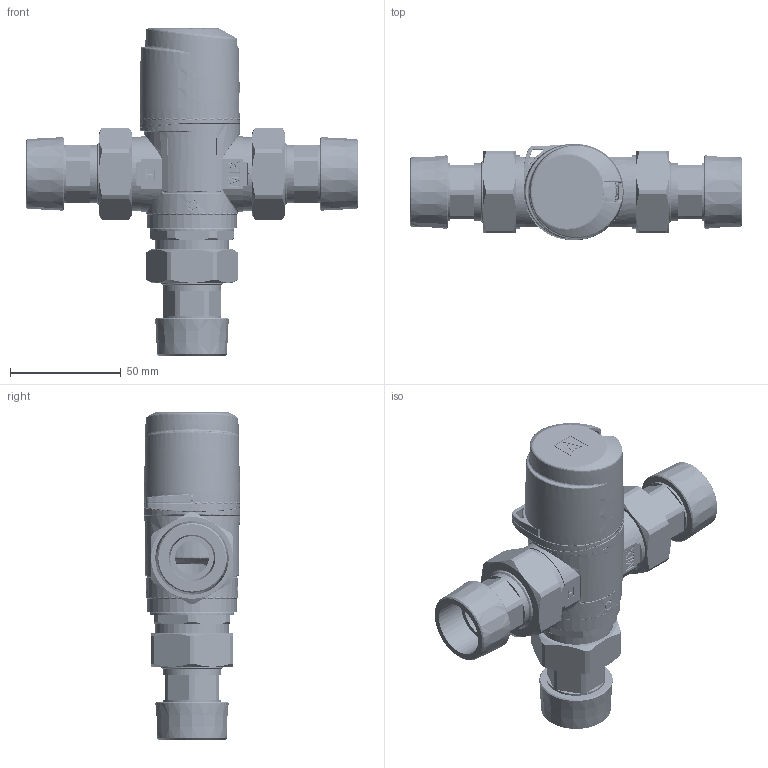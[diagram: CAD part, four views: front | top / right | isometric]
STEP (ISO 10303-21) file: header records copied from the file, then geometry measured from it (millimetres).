
FILE_DESCRIPTION (( 'STEP AP214' ), '1' );
FILE_NAME ('ATM561_Zawor_termostatyczny_DN20_1256144_0_3D_AFRISO.STEP', '2024-03-18T14:20:49', ( '' ), ( '' ), 'SwSTEP 2.0', 'SolidWorks 2022', '' );
FILE_SCHEMA (( 'AUTOMOTIVE_DESIGN' ));
Length unit declared in the file: millimetre
Products named in the file (12): Zestaw_srubunkow_1220210_0_3D_AFRISO; 21780; 67082; 1inch; 67080; 1; 67197; 67081; 67196; 67079; 41181; ATM561_Zawor_termostatyczny_DN20_1256144_0_3D_AFRISO
Assembly tree (13 placements, depth 3):
  ATM561_Zawor_termostatyczny_DN20_1256144_0_3D_AFRISO
    41181
    67082
    67079
    21780
    67196
    67081
    67197
    67080
    Zestaw_srubunkow_1220210_0_3D_AFRISO  x3
      1
      1inch
Bounding box: 150 x 43.4 x 147.75 mm (x, y, z)
Volume: 115912.5 mm3; surface area: 110599.7 mm2
Topology: 11 solids, 473 shells, 5270 faces, 13813 edges, 8784 vertices
Faces by surface type: bspline 2411, cylinder 1513, plane 916, cone 416, torus 14
Entity records: 245768 total; most frequent: CARTESIAN_POINT 123434, ORIENTED_EDGE 23672, DIRECTION 17186, EDGE_CURVE 12960, VERTEX_POINT 8435, AXIS2_PLACEMENT_3D 6930, EDGE_LOOP 5135, ADVANCED_FACE 5041
